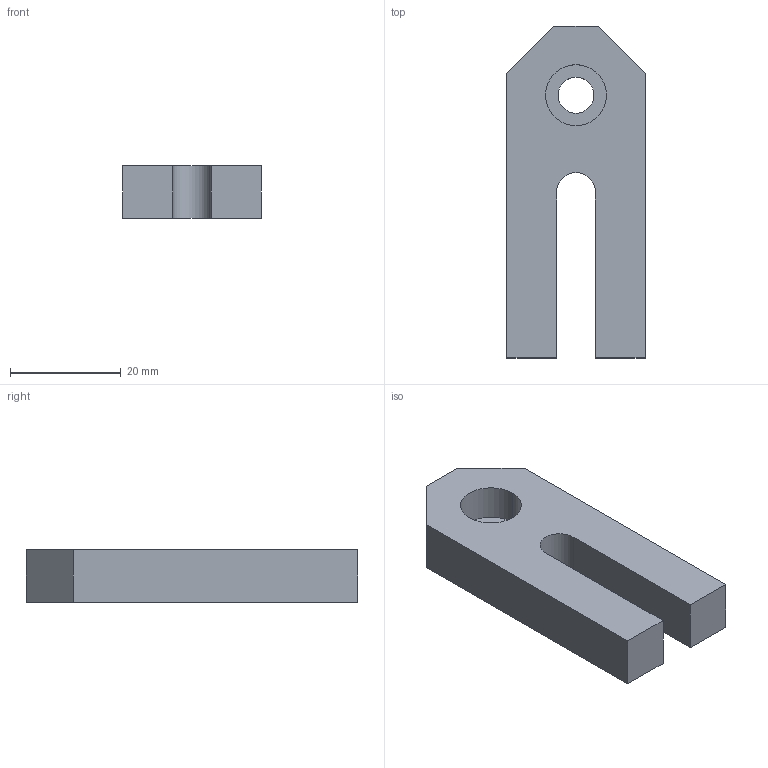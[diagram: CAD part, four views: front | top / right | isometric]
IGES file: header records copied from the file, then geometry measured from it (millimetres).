
Start section:  PTC IGES file: ESB03S.igs
Global section: file name: ESB03S.igs; native system: Pro/ENGINEER by Parametric Technology Corporation; preprocessor: 2006460; author: user; organization: Unknown; date: 20130717.172325; units: millimetre
Bounding box: 25 x 60 x 9.5 mm (x, y, z)
Surface area: 4744.9 mm2 (no closed solid volume)
Topology: 0 solids, 0 shells, 17 faces, 84 edges, 84 vertices
Faces by surface type: bspline 12, revolution 5
